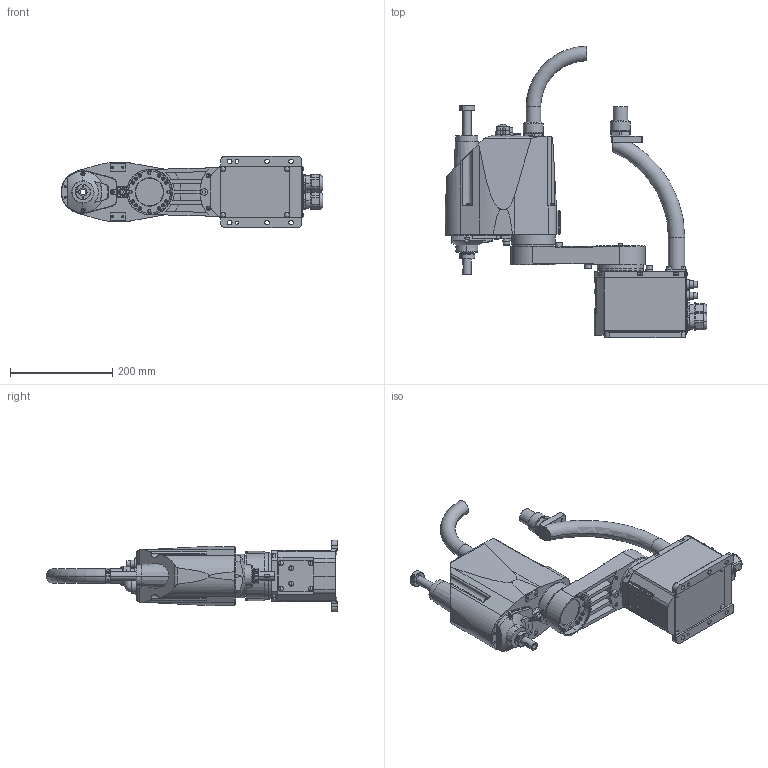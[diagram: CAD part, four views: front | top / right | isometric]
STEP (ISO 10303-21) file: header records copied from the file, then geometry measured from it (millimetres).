
FILE_DESCRIPTION( ( '' ), '1' );
FILE_NAME( '//expscmdclustefs.cadenas.external/client_exchange/iodir/jobs/output/wkb51506151_no0/STEP/G3_301S_2_03.stp', '2012-11-22T13:37:36', ( '' ), ( '' ), ' ', ' ', ' ' );
FILE_SCHEMA( ( 'CONFIG_CONTROL_DESIGN' ) );
Length unit declared in the file: millimetre
Products named in the file (4): 1; 2; 3; 4
Bounding box: 511.5 x 570 x 140 mm (x, y, z)
Volume: 7516322.8 mm3; surface area: 543910.9 mm2
Topology: 4 solids, 4 shells, 1869 faces, 4641 edges, 2978 vertices
Faces by surface type: plane 873, cylinder 679, cone 195, torus 85, sphere 37
Entity records: 57624 total; most frequent: CARTESIAN_POINT 11579, DIRECTION 10072, ORIENTED_EDGE 9210, EDGE_CURVE 4605, AXIS2_PLACEMENT_3D 3758, VERTEX_POINT 2978, LINE 2556, VECTOR 2556
